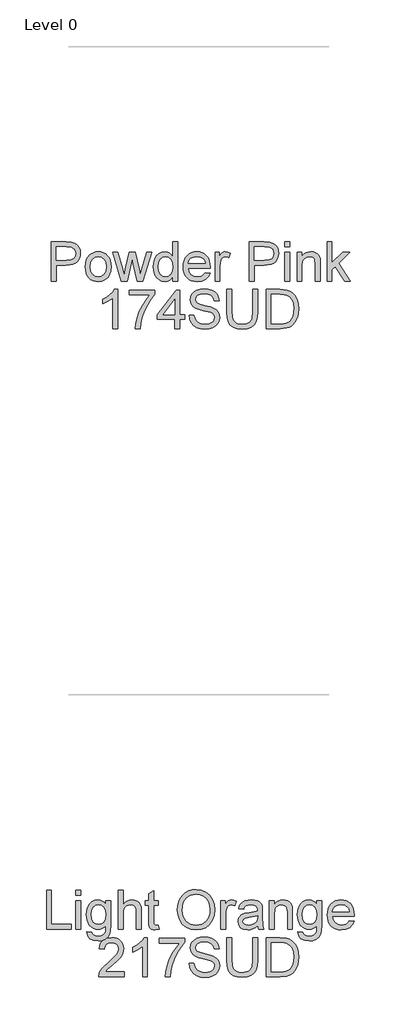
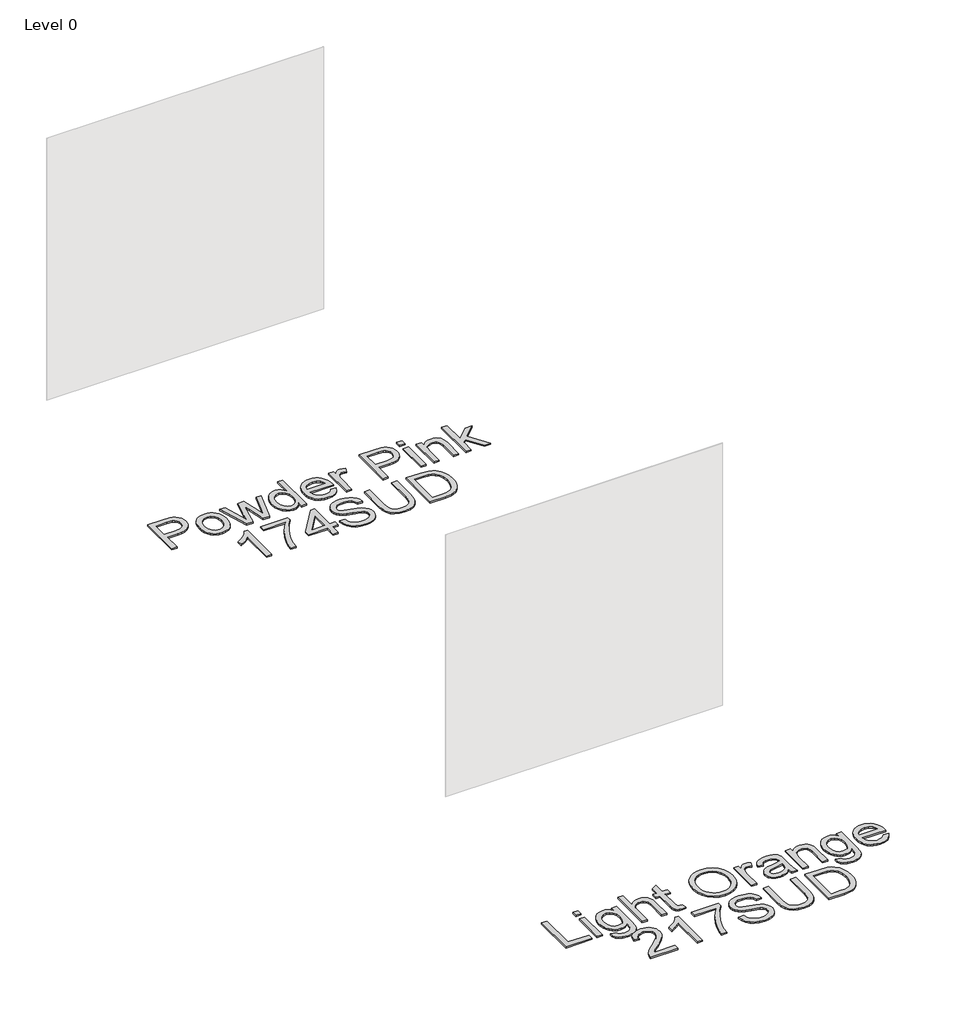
# One storey, part 8 of 37: 2 proxies.
"""IFC4 building model written with IfcOpenShell, lengths in millimetres."""

from ifc_helpers import new_model, si_unit, origin, origin_with_axes, place, context, project, spatial, polyline, outline, extrude, element, save

model = new_model("IFC4")

# Units and contexts
model_context = context("Model", 3, world=origin())
ifc_project = project(units=[si_unit("LENGTHUNIT", "METRE", prefix="MILLI")], contexts=[model_context])

# Site, building, storey
site = spatial("IfcSite", under=ifc_project)
building = spatial("IfcBuilding", under=site)
storey = spatial("IfcBuildingStorey", under=building, Name="Level 0", Elevation=0.0)

# Proxies
placement = place(None, origin())
element("IfcBuildingElementProxy", 1, Name="300mm Arial", ObjectType="300mm Arial", at=placement, inside=storey, context=model_context, shape_type="SweptSolid", body=[
    extrude(outline(polyline([(-10587.8548798, -16982.860494), (-10587.8548798, -16681.4915635), (-10476.1659061, -16681.4915635), (-10431.1371499, -16684.3610431), (-10411.05999, -16689.7229232), (-10394.5328913, -16698.4509235), (-10381.2247602, -16710.9405172), (-10370.8045026, -16727.5871775), (-10364.0722621, -16747.222879), (-10361.828182, -16768.6795964), (-10363.3433959, -16787.1794622), (-10367.8890378, -16804.198603), (-10375.4651077, -16819.7370188), (-10386.0716054, -16833.7947095), (-10400.6328347, -16845.4473717), (-10420.0730988, -16853.7707019), (-10444.392398, -16858.7647), (-10473.5907321, -16860.429366), (-10550.1837635, -16860.429366), (-10550.1837635, -16982.860494), (-10587.8548798, -16982.860494)]), holes=[polyline([(-10550.1837635, -16822.7582497), (-10471.3834401, -16822.7582497), (-10437.979755, -16819.3001589), (-10415.9068353, -16808.9258867), (-10403.6011825, -16792.2792264), (-10399.4992983, -16770.0039716), (-10401.9181224, -16753.0813998), (-10409.1745947, -16738.8075784), (-10420.3674044, -16728.0654241), (-10434.5952406, -16721.7378538), (-10472.2663569, -16719.1626798), (-10550.1837635, -16719.1626798), (-10550.1837635, -16822.7582497)])]), origin_with_axes(), (0.0, 0.0, 1.0), 10.0),
    extrude(outline(polyline([(-10324.1570657, -16872.2015898), (-10322.1199191, -16843.5389839), (-10316.0084795, -16818.8403064), (-10305.8227467, -16798.1055575), (-10291.5627209, -16781.334737), (-10277.206126, -16770.6155754), (-10261.3596091, -16762.9590314), (-10244.0231701, -16758.3651049), (-10225.196809, -16756.8337961), (-10204.4137755, -16758.698498), (-10185.6219033, -16764.2926036), (-10168.8211925, -16773.6161129), (-10154.0116429, -16786.669026), (-10141.9244201, -16803.0098843), (-10133.2906895, -16822.1972296), (-10128.1104512, -16844.2310619), (-10126.383705, -16869.1113811), (-10129.4371256, -16907.1687735), (-10138.5973873, -16936.1394806), (-10153.5977756, -16957.8353213), (-10174.1715762, -16974.0681143), (-10198.6081378, -16984.1940662), (-10225.196809, -16987.5693835), (-10246.2833451, -16985.7115794), (-10265.2499612, -16980.1381672), (-10282.0966573, -16970.8491468), (-10296.8234334, -16957.8445183), (-10308.7818975, -16941.3450108), (-10317.3236576, -16921.5713536), (-10322.4487136, -16898.5235466), (-10324.1570657, -16872.2015898)]), holes=[polyline([(-10286.4859493, -16872.1280134), (-10282.1265477, -16906.2214773), (-10269.0483428, -16930.5108861), (-10249.366656, -16945.0514219), (-10225.196809, -16949.8982672), (-10201.1373265, -16945.0238308), (-10181.4924279, -16930.4005215), (-10168.414223, -16905.789216), (-10164.0548214, -16870.950791), (-10168.4418141, -16837.8506085), (-10181.6027925, -16813.8922936), (-10201.2752822, -16799.3517577), (-10225.196809, -16794.5049125), (-10249.366656, -16799.3333636), (-10269.0483428, -16813.8187172), (-10282.1265477, -16838.0529436), (-10286.4859493, -16872.1280134)])]), origin_with_axes(), (0.0, 0.0, 1.0), 10.0),
    extrude(outline(polyline([(-10047.2890761, -16982.860494), (-10114.6114812, -16761.5426857), (-10075.4688369, -16761.5426857), (-10037.2826858, -16890.669266), (-10025.878344, -16936.8016682), (-10016.5341413, -16892.3615232), (-9986.1470885, -16761.5426857), (-9941.2654851, -16761.5426857), (-9911.0255851, -16891.9936412), (-9902.711452, -16932.2399314), (-9890.7920753, -16889.7863492), (-9852.5323478, -16761.5426857), (-9813.2425508, -16761.5426857), (-9881.0799907, -16982.860494), (-9926.6237817, -16982.860494), (-9955.5393065, -16853.0717261), (-9963.927016, -16812.6047066), (-10001.2302503, -16982.860494), (-10047.2890761, -16982.860494)])), origin_with_axes(), (0.0, 0.0, 1.0), 10.0),
    extrude(outline(polyline([(-9650.7858617, -16982.860494), (-9650.7858617, -16947.3230932), (-9662.0568463, -16964.9308452), (-9675.7098669, -16977.507811), (-9691.7449233, -16985.0539904), (-9710.1620157, -16987.5693835), (-9734.5158038, -16983.9273518), (-9756.8094527, -16973.0012565), (-9775.681799, -16955.5544529), (-9789.7716795, -16932.350296), (-9798.545665, -16904.3268851), (-9801.4703269, -16872.422319), (-9798.7755913, -16840.9132261), (-9790.6913844, -16812.4575538), (-9777.2269034, -16788.6739828), (-9758.3913453, -16771.181194), (-9735.6102527, -16760.4206456), (-9710.3091685, -16756.8337961), (-9691.8782805, -16759.3997731), (-9675.5811082, -16767.0977038), (-9661.7671392, -16778.8975188), (-9650.7858617, -16793.7691485), (-9650.7858617, -16681.4915635), (-9613.1147454, -16681.4915635), (-9613.1147454, -16982.860494), (-9650.7858617, -16982.860494)]), holes=[polyline([(-9763.7992106, -16872.2751662), (-9759.5501736, -16906.350236), (-9746.8030624, -16930.5844625), (-9728.280204, -16945.069816), (-9706.703925, -16949.8982672), (-9685.136843, -16945.2905452), (-9667.0830341, -16931.4673793), (-9654.8601548, -16908.1712519), (-9650.7858617, -16875.1446458), (-9654.9337312, -16839.037028), (-9667.3773397, -16814.0026582), (-9685.8910011, -16799.3793489), (-9708.2490293, -16794.5049125), (-9730.0460375, -16799.1862108), (-9747.9067084, -16813.230106), (-9759.8260851, -16837.3539678), (-9763.7992106, -16872.2751662)])]), origin_with_axes(), (0.0, 0.0, 1.0), 10.0),
    extrude(outline(polyline([(-9401.6561745, -16916.9360404), (-9364.7208222, -16921.64493), (-9378.0289534, -16949.4752029), (-9399.2649416, -16970.2789297), (-9427.9505402, -16983.2467701), (-9463.6075025, -16987.5693835), (-9486.9818048, -16985.7046817), (-9507.8085243, -16980.1105761), (-9526.0876609, -16970.7870668), (-9541.8192147, -16957.7341537), (-9554.4697568, -16941.3151204), (-9563.5058583, -16921.8932503), (-9568.9275192, -16899.4685435), (-9570.7347395, -16874.0409998), (-9568.9091251, -16847.7512327), (-9563.4322819, -16824.5792656), (-9554.3042099, -16804.5250983), (-9541.5249091, -16787.5887309), (-9525.834742, -16774.133447), (-9507.9740712, -16764.5225298), (-9487.9428965, -16758.7559796), (-9465.7412181, -16756.8337961), (-9444.2546103, -16758.751381), (-9424.8235432, -16764.5041357), (-9407.4480167, -16774.0920602), (-9392.1280309, -16787.5151545), (-9379.6223423, -16804.4147337), (-9370.6897076, -16824.4321128), (-9365.3301268, -16847.5672917), (-9363.5435998, -16873.8202706), (-9363.764329, -16883.9738137), (-9533.0636232, -16883.9738137), (-9526.5429149, -16912.1719686), (-9511.3953737, -16932.902119), (-9489.5339861, -16945.6492302), (-9462.8717385, -16949.8982672), (-9442.8221698, -16947.9300985), (-9425.9363862, -16942.0255925), (-9412.2143878, -16931.8168672), (-9401.6561745, -16916.9360404)]), holes=[polyline([(-9533.0636232, -16846.3026974), (-9401.2147162, -16846.3026974), (-9406.3098818, -16826.4002814), (-9416.297878, -16812.1632482), (-9438.2604331, -16798.9194964), (-9465.8883709, -16794.5049125), (-9491.2814256, -16798.0273826), (-9512.2782905, -16808.5947929), (-9526.8740087, -16825.0667092), (-9533.0636232, -16846.3026974)])]), origin_with_axes(), (0.0, 0.0, 1.0), 10.0),
    extrude(outline(polyline([(-9325.8724835, -16982.860494), (-9325.8724835, -16761.5426857), (-9292.9102568, -16761.5426857), (-9292.9102568, -16794.2841833), (-9280.7333627, -16775.3014723), (-9269.5129619, -16764.1178596), (-9258.2557728, -16758.654812), (-9245.9685142, -16756.8337961), (-9227.2065324, -16759.7400639), (-9208.1502451, -16768.4588672), (-9220.7318093, -16802.2304343), (-9233.9755611, -16796.4362929), (-9247.219313, -16794.5049125), (-9258.467305, -16796.3627165), (-9268.5196805, -16801.9361288), (-9276.6406755, -16810.8020848), (-9282.0945261, -16822.5375205), (-9286.674657, -16843.5803706), (-9288.2013672, -16866.5362071), (-9288.2013672, -16982.860494), (-9325.8724835, -16982.860494)])), origin_with_axes(), (0.0, 0.0, 1.0), 10.0),
    extrude(outline(polyline([(-9062.1746694, -16982.860494), (-9062.1746694, -16681.4915635), (-8950.4856957, -16681.4915635), (-8905.4569395, -16684.3610431), (-8885.3797796, -16689.7229232), (-8868.8526809, -16698.4509235), (-8855.5445498, -16710.9405172), (-8845.1242922, -16727.5871775), (-8838.3920517, -16747.222879), (-8836.1479716, -16768.6795964), (-8837.6631855, -16787.1794622), (-8842.2088274, -16804.198603), (-8849.7848973, -16819.7370188), (-8860.391395, -16833.7947095), (-8874.9526243, -16845.4473717), (-8894.3928885, -16853.7707019), (-8918.7121876, -16858.7647), (-8947.9105217, -16860.429366), (-9024.5035531, -16860.429366), (-9024.5035531, -16982.860494), (-9062.1746694, -16982.860494)]), holes=[polyline([(-9024.5035531, -16822.7582497), (-8945.7032297, -16822.7582497), (-8912.2995446, -16819.3001589), (-8890.2266249, -16808.9258867), (-8877.9209721, -16792.2792264), (-8873.8190879, -16770.0039716), (-8876.237912, -16753.0813998), (-8883.4943843, -16738.8075784), (-8894.687194, -16728.0654241), (-8908.9150302, -16721.7378538), (-8946.5861465, -16719.1626798), (-9024.5035531, -16719.1626798), (-9024.5035531, -16822.7582497)])]), origin_with_axes(), (0.0, 0.0, 1.0), 10.0),
    extrude(outline(polyline([(-8789.0590762, -16719.1626798), (-8789.0590762, -16681.4915635), (-8751.3879599, -16681.4915635), (-8751.3879599, -16719.1626798), (-8789.0590762, -16719.1626798)])), origin_with_axes(), (0.0, 0.0, 1.0), 10.0),
    extrude(outline(polyline([(-8789.0590762, -16982.860494), (-8789.0590762, -16761.5426857), (-8751.3879599, -16761.5426857), (-8751.3879599, -16982.860494), (-8789.0590762, -16982.860494)])), origin_with_axes(), (0.0, 0.0, 1.0), 10.0),
    extrude(outline(polyline([(-8694.8812854, -16982.860494), (-8694.8812854, -16761.5426857), (-8657.2101691, -16761.5426857), (-8657.2101691, -16792.4447733), (-8644.1227671, -16776.8649708), (-8628.4050089, -16765.7365404), (-8610.0568944, -16759.0594822), (-8589.0784236, -16756.8337961), (-8570.5095799, -16758.6272209), (-8553.5042347, -16764.0074951), (-8539.3223838, -16772.303234), (-8529.224023, -16782.8430532), (-8517.9300457, -16810.5445674), (-8515.943483, -16846.964885), (-8515.943483, -16982.860494), (-8553.6145993, -16982.860494), (-8553.6145993, -16852.0416565), (-8557.9556068, -16818.7115477), (-8563.9612804, -16808.7879309), (-8573.296286, -16801.0900002), (-8585.2616479, -16796.1511844), (-8599.1583903, -16794.5049125), (-8621.2221129, -16798.2021265), (-8640.0300799, -16809.2937687), (-8647.5463689, -16818.3482643), (-8652.9151468, -16830.7228949), (-8657.2101691, -16865.4325611), (-8657.2101691, -16982.860494), (-8694.8812854, -16982.860494)])), origin_with_axes(), (0.0, 0.0, 1.0), 10.0),
    extrude(outline(polyline([(-8464.145698, -16982.860494), (-8464.145698, -16681.4915635), (-8426.4745817, -16681.4915635), (-8426.4745817, -16843.4332178), (-8342.0088756, -16761.5426857), (-8289.9167851, -16761.5426857), (-8375.4125608, -16844.4632874), (-8285.2078956, -16982.860494), (-8329.2065822, -16982.860494), (-8402.4150993, -16870.6564855), (-8426.4745817, -16893.9802039), (-8426.4745817, -16982.860494), (-8464.145698, -16982.860494)])), origin_with_axes(), (0.0, 0.0, 1.0), 10.0),
    extrude(outline(polyline([(-10076.9403649, -17348.7849475), (-10114.6114812, -17348.7849475), (-10114.6114812, -17113.9290818), (-10150.2960347, -17139.3497277), (-10189.9537138, -17158.3692268), (-10189.9537138, -17122.7582497), (-10160.3668044, -17106.6634124), (-10134.7346263, -17087.5151545), (-10114.5287078, -17067.1528861), (-10101.2205766, -17047.4160171), (-10076.9403649, -17047.4160171), (-10076.9403649, -17348.7849475)])), origin_with_axes(), (0.0, 0.0, 1.0), 10.0),
    extrude(outline(polyline([(-9987.4714637, -17089.7960229), (-9987.4714637, -17052.1249066), (-9789.6981031, -17052.1249066), (-9789.6981031, -17082.5855358), (-9817.8870609, -17118.2608923), (-9845.8001073, -17163.6299393), (-9870.4206099, -17214.5540045), (-9888.7319362, -17266.8944154), (-9897.7082568, -17306.0554538), (-9902.711452, -17348.7849475), (-9940.3825683, -17348.7849475), (-9936.3082752, -17309.9550029), (-9925.4097711, -17263.8042066), (-9907.9813616, -17214.8850983), (-9884.3173522, -17167.7502177), (-9856.6894144, -17125.1402856), (-9827.3692194, -17089.7960229), (-9987.4714637, -17089.7960229)])), origin_with_axes(), (0.0, 0.0, 1.0), 10.0),
    extrude(outline(polyline([(-9634.3047483, -17348.7849475), (-9634.3047483, -17278.1516044), (-9770.8625449, -17278.1516044), (-9770.8625449, -17240.4804881), (-9624.8869692, -17052.1249066), (-9596.633632, -17052.1249066), (-9596.633632, -17240.4804881), (-9558.9625157, -17240.4804881), (-9558.9625157, -17278.1516044), (-9596.633632, -17278.1516044), (-9596.633632, -17348.7849475), (-9634.3047483, -17348.7849475)]), holes=[polyline([(-9634.3047483, -17240.4804881), (-9634.3047483, -17124.0826249), (-9724.5094135, -17240.4804881), (-9634.3047483, -17240.4804881)])]), origin_with_axes(), (0.0, 0.0, 1.0), 10.0),
    extrude(outline(polyline([(-9526.0002889, -17245.1893777), (-9488.3291726, -17245.1893777), (-9484.0065592, -17266.0942721), (-9476.1890668, -17282.8972822), (-9463.9937786, -17296.2330045), (-9446.537778, -17306.7360355), (-9425.2006222, -17313.5510494), (-9401.361869, -17315.8227207), (-9380.3742011, -17314.1028724), (-9361.9984955, -17308.9433274), (-9347.1084717, -17300.7763471), (-9336.5778496, -17290.0341929), (-9330.3146586, -17277.700949), (-9328.2269283, -17264.7606998), (-9329.7904268, -17252.1515444), (-9334.4809222, -17241.2530403), (-9344.0090659, -17231.9548229), (-9360.0855091, -17224.1465276), (-9414.9367146, -17209.7623415), (-9450.9431649, -17200.2433949), (-9473.9817748, -17191.1843008), (-9492.7345595, -17178.510766), (-9506.0242966, -17163.1516928), (-9513.9429565, -17145.4381747), (-9516.5825098, -17125.7013056), (-9513.3175571, -17103.637583), (-9503.522699, -17083.0637824), (-9487.4554529, -17065.6261758), (-9465.3733361, -17052.9710352), (-9438.8674384, -17045.2731044), (-9409.5288492, -17042.7071275), (-9377.7438449, -17045.3926661), (-9349.931966, -17053.4492818), (-9327.0864941, -17066.7114277), (-9310.2007105, -17085.013557), (-9299.5137386, -17107.2152354), (-9295.2647015, -17132.1760288), (-9332.9358179, -17132.1760288), (-9339.8519994, -17109.6984389), (-9354.2729736, -17093.4748429), (-9376.8057458, -17083.6523936), (-9408.0573213, -17080.3782438), (-9440.0446607, -17083.6156054), (-9461.9888218, -17093.3276901), (-9474.6807506, -17107.6199056), (-9478.9113935, -17124.5976597), (-9475.9131553, -17139.0738162), (-9466.9184405, -17150.7172813), (-9445.6548612, -17161.1283418), (-9405.4085709, -17171.7601314), (-9363.8746936, -17181.8584922), (-9338.7483534, -17190.669266), (-9317.2732419, -17204.3360821), (-9302.2912477, -17221.2034716), (-9293.4896709, -17241.0874934), (-9290.555812, -17263.8042066), (-9293.9311293, -17287.0267576), (-9304.0570812, -17308.869751), (-9320.5198005, -17327.668521), (-9342.9054199, -17341.7584014), (-9369.8251849, -17350.5599781), (-9399.890341, -17353.4938371), (-9436.7981021, -17350.3300519), (-9467.1759579, -17340.8386964), (-9491.3733961, -17324.9829824), (-9509.7399047, -17302.7261217), (-9521.5305227, -17275.6132187), (-9526.0002889, -17245.1893777)])), origin_with_axes(), (0.0, 0.0, 1.0), 10.0),
    extrude(outline(polyline([(-9036.2757769, -17047.4160171), (-8998.6046606, -17047.4160171), (-8998.6046606, -17221.277048), (-9001.1614405, -17261.9923878), (-9008.8317801, -17293.3451308), (-9023.1607838, -17317.533372), (-9045.693556, -17336.7552063), (-9076.485279, -17349.3091794), (-9115.5911351, -17353.4938371), (-9153.8416655, -17349.8518053), (-9184.4218564, -17338.92571), (-9207.3409047, -17321.0926303), (-9222.6080075, -17296.7296452), (-9231.188855, -17264.052527), (-9234.0491375, -17221.277048), (-9234.0491375, -17047.4160171), (-9196.3780212, -17047.4160171), (-9196.3780212, -17219.9526728), (-9194.5202172, -17253.8070134), (-9188.9468049, -17277.3790523), (-9178.8484442, -17293.7038158), (-9163.4157945, -17305.8163305), (-9143.2926493, -17313.3211232), (-9119.1228023, -17315.8227207), (-9080.8078925, -17310.8747079), (-9066.4650932, -17304.6896919), (-9055.3320643, -17296.0306694), (-9046.9949386, -17283.8537754), (-9041.0398488, -17267.1151446), (-9036.2757769, -17219.9526728), (-9036.2757769, -17047.4160171)])), origin_with_axes(), (0.0, 0.0, 1.0), 10.0),
    extrude(outline(polyline([(-8932.6802071, -17348.7849475), (-8932.6802071, -17047.4160171), (-8828.7167553, -17047.4160171), (-8774.9324076, -17051.7570246), (-8750.9097133, -17060.12634), (-8730.6394153, -17073.3149095), (-8709.7989003, -17096.270746), (-8694.9548618, -17124.8183889), (-8686.0705116, -17158.406015), (-8683.1090616, -17196.4818015), (-8685.1140184, -17228.8278259), (-8691.1288891, -17257.2926953), (-8700.2891507, -17281.5269217), (-8711.7302808, -17301.1810173), (-8724.9004562, -17316.6964405), (-8739.247854, -17328.5146496), (-8755.7197704, -17337.2794381), (-8775.2635014, -17343.6345996), (-8823.7135601, -17348.7849475), (-8932.6802071, -17348.7849475)]), holes=[polyline([(-8895.0090908, -17311.1138312), (-8828.3488733, -17311.1138312), (-8800.7761177, -17309.7526678), (-8779.8620263, -17305.6691777), (-8764.0798887, -17299.1024841), (-8751.9029947, -17290.2917103), (-8738.8155927, -17273.9853408), (-8728.9839464, -17252.8781114), (-8722.83112, -17226.8780514), (-8720.7801779, -17195.8931903), (-8724.7992887, -17154.8375597), (-8736.8566211, -17124.5240833), (-8754.6713067, -17103.7019623), (-8775.9624772, -17091.1203981), (-8797.6307267, -17086.5954496), (-8829.3789429, -17085.0871334), (-8895.0090908, -17085.0871334), (-8895.0090908, -17311.1138312)])]), origin_with_axes(), (0.0, 0.0, 1.0), 10.0),
])
element("IfcBuildingElementProxy", 2, Name="300mm Arial", ObjectType="300mm Arial", at=placement, inside=storey, context=model_context, shape_type="SweptSolid", body=[
    extrude(outline(polyline([(-10623.1715513, -21972.860494), (-10623.1715513, -21671.4915635), (-10585.500435, -21671.4915635), (-10585.500435, -21935.1893777), (-10434.8159698, -21935.1893777), (-10434.8159698, -21972.860494), (-10623.1715513, -21972.860494)])), origin_with_axes(), (0.0, 0.0, 1.0), 10.0),
    extrude(outline(polyline([(-10397.1448535, -21972.860494), (-10397.1448535, -21751.5426857), (-10359.4737372, -21751.5426857), (-10359.4737372, -21972.860494), (-10397.1448535, -21972.860494)])), origin_with_axes(), (0.0, 0.0, 1.0), 10.0),
    extrude(outline(polyline([(-10397.1448535, -21709.1626798), (-10397.1448535, -21671.4915635), (-10359.4737372, -21671.4915635), (-10359.4737372, -21709.1626798), (-10397.1448535, -21709.1626798)])), origin_with_axes(), (0.0, 0.0, 1.0), 10.0),
    extrude(outline(polyline([(-10312.3848418, -21991.6960521), (-10274.7137255, -21996.4049417), (-10270.556659, -22008.1771655), (-10262.5000433, -22016.2705694), (-10246.6627234, -22022.5613515), (-10225.9325729, -22024.6582789), (-10203.822865, -22022.28544), (-10187.3785398, -22015.1669234), (-10175.974198, -22003.7625816), (-10168.9844401, -21988.532267), (-10166.4092661, -21944.6071568), (-10178.9448451, -21956.9679918), (-10192.933558, -21965.7971597), (-10208.3754047, -21971.0946604), (-10225.2703854, -21972.860494), (-10245.9246601, -21970.8049533), (-10264.109527, -21964.6383314), (-10279.824986, -21954.3606281), (-10293.0710371, -21939.9718436), (-10303.5809658, -21922.708981), (-10311.0880578, -21903.8090435), (-10315.592313, -21883.2720311), (-10317.0937313, -21861.0979438), (-10314.3989957, -21830.6832999), (-10306.3147889, -21802.7150712), (-10293.1262194, -21779.0142737), (-10275.1183957, -21761.4019232), (-10252.9075202, -21750.4758279), (-10227.1097953, -21746.8337961), (-10209.4928463, -21748.8939353), (-10193.5037751, -21755.0743528), (-10179.1425817, -21765.3750487), (-10166.4092661, -21779.7960229), (-10166.4092661, -21751.5426857), (-10128.7381498, -21751.5426857), (-10128.7381498, -21942.620594), (-10131.3133238, -21986.7388422), (-10139.0388457, -22015.7923228), (-10152.3469769, -22035.0601423), (-10171.6699787, -22049.8214074), (-10196.5847868, -22059.2023982), (-10226.6683369, -22062.3293952), (-10261.718294, -22057.9240083), (-10289.3186407, -22044.7078476), (-10299.7136063, -22034.7865301), (-10307.0229617, -22022.644125), (-10311.2467069, -22008.2806323), (-10312.3848418, -21991.6960521)]), holes=[polyline([(-10279.422615, -21858.5227699), (-10275.4035042, -21893.0760863), (-10263.3461719, -21916.8320661), (-10245.2187865, -21930.6000498), (-10222.989517, -21935.1893777), (-10200.9257943, -21930.6276409), (-10182.7064385, -21916.9424307), (-10170.4835592, -21893.4899535), (-10166.4092661, -21859.6264159), (-10170.6031209, -21826.9676917), (-10183.1846851, -21803.4508352), (-10201.6707554, -21789.2413931), (-10223.5781282, -21784.5049125), (-10245.0900278, -21789.1678167), (-10263.1254427, -21803.1565296), (-10275.3483219, -21826.3238983), (-10279.422615, -21858.5227699)])]), origin_with_axes(), (0.0, 0.0, 1.0), 10.0),
    extrude(outline(polyline([(-10072.2314754, -21972.860494), (-10072.2314754, -21671.4915635), (-10034.5603591, -21671.4915635), (-10034.5603591, -21782.2976205), (-10020.7233975, -21766.7821973), (-10005.1849817, -21755.6997522), (-9987.9451117, -21749.0502852), (-9969.0037875, -21746.8337961), (-9946.2502861, -21749.2526203), (-9926.6973581, -21756.5090926), (-9911.3014966, -21768.0329961), (-9901.0191948, -21783.2541137), (-9895.2250534, -21804.1682051), (-9893.2936729, -21832.7710302), (-9893.2936729, -21972.860494), (-9930.9647892, -21972.860494), (-9930.9647892, -21836.6705794), (-9933.9630275, -21813.0893435), (-9942.9577423, -21796.9393239), (-9957.4522929, -21787.6135153), (-9976.9500386, -21784.5049125), (-9992.8701319, -21786.6018398), (-10007.815338, -21792.8926219), (-10020.1945671, -21802.7702535), (-10028.4167297, -21815.6277292), (-10033.0244517, -21832.7158479), (-10034.5603591, -21855.2854083), (-10034.5603591, -21972.860494), (-10072.2314754, -21972.860494)])), origin_with_axes(), (0.0, 0.0, 1.0), 10.0),
    extrude(outline(polyline([(-9761.4447658, -21941.4433716), (-9756.7358763, -21973.96414), (-9784.9156371, -21977.5693835), (-9802.9970372, -21976.005885), (-9816.4799123, -21971.3153896), (-9826.008056, -21964.0865084), (-9832.2252617, -21954.9078526), (-9835.6465643, -21939.1441091), (-9836.7869984, -21912.1599648), (-9836.7869984, -21789.213802), (-9865.0403357, -21789.213802), (-9865.0403357, -21751.5426857), (-9836.7869984, -21751.5426857), (-9836.7869984, -21697.758338), (-9799.1158821, -21675.6118419), (-9799.1158821, -21751.5426857), (-9761.4447658, -21751.5426857), (-9761.4447658, -21789.213802), (-9799.1158821, -21789.213802), (-9799.1158821, -21911.0563188), (-9797.1293194, -21930.4804881), (-9790.6913844, -21937.3598814), (-9777.8523028, -21939.8982672), (-9761.4447658, -21941.4433716)])), origin_with_axes(), (0.0, 0.0, 1.0), 10.0),
    extrude(outline(polyline([(-9615.4691901, -21826.1491543), (-9612.9583955, -21790.8002931), (-9605.4260117, -21759.5073309), (-9592.8720386, -21732.2702677), (-9575.2964763, -21709.0891034), (-9553.7523869, -21690.5800406), (-9529.2928328, -21677.3592814), (-9501.9178138, -21669.4268258), (-9471.62733, -21666.782674), (-9432.0984097, -21671.7490809), (-9396.6529794, -21686.6483017), (-9367.2224198, -21710.4318727), (-9345.7381113, -21742.0513302), (-9332.6047241, -21779.9799639), (-9328.2269283, -21822.6910636), (-9332.8346503, -21865.9723803), (-9346.6578163, -21904.4344429), (-9368.9330711, -21936.1090827), (-9398.8970596, -21959.028131), (-9434.0389872, -21972.9340704), (-9471.8480592, -21977.5693835), (-9511.9839849, -21972.4466267), (-9547.6317502, -21957.0783564), (-9576.9887335, -21932.853327), (-9598.2523128, -21901.1602931), (-9611.1649708, -21864.6939903), (-9615.4691901, -21826.1491543)]), holes=[polyline([(-9577.7980738, -21826.5170363), (-9575.9149779, -21851.4916252), (-9570.26569, -21873.661114), (-9560.8502102, -21893.0255025), (-9547.6685384, -21909.5847908), (-9531.6449783, -21922.8469367), (-9513.7038332, -21932.3198981), (-9493.8451033, -21938.0036749), (-9472.0687884, -21939.8982672), (-9449.9199931, -21937.9852808), (-9429.8267383, -21932.2463217), (-9411.7890243, -21922.6813898), (-9395.8068508, -21909.2904852), (-9382.7217481, -21892.381709), (-9373.3752462, -21872.2631624), (-9367.767345, -21848.9348454), (-9365.8980446, -21822.396758), (-9369.098618, -21789.0482551), (-9378.7003381, -21760.2247008), (-9394.4548845, -21736.6526619), (-9416.113937, -21719.0587055), (-9442.2427557, -21708.1050191), (-9471.4066008, -21704.4537903), (-9492.4264583, -21706.2127261), (-9511.9288026, -21711.4895335), (-9529.9136336, -21720.2842124), (-9546.3809515, -21732.5967629), (-9560.1259425, -21749.0203948), (-9569.9437932, -21770.1483176), (-9575.8345037, -21795.9805314), (-9577.7980738, -21826.5170363)])]), origin_with_axes(), (0.0, 0.0, 1.0), 10.0),
    extrude(outline(polyline([(-9281.1380329, -21972.860494), (-9281.1380329, -21751.5426857), (-9248.1758062, -21751.5426857), (-9248.1758062, -21784.2841833), (-9235.9989121, -21765.3014723), (-9224.7785113, -21754.1178596), (-9213.5213222, -21748.654812), (-9201.2340636, -21746.8337961), (-9182.4720818, -21749.7400639), (-9163.4157945, -21758.4588672), (-9175.9973587, -21792.2304343), (-9189.2411105, -21786.4362929), (-9202.4848624, -21784.5049125), (-9213.7328544, -21786.3627165), (-9223.7852299, -21791.9361288), (-9231.9062249, -21800.8020848), (-9237.3600755, -21812.5375205), (-9241.9402063, -21833.5803706), (-9243.4669166, -21856.5362071), (-9243.4669166, -21972.860494), (-9281.1380329, -21972.860494)])), origin_with_axes(), (0.0, 0.0, 1.0), 10.0),
    extrude(outline(polyline([(-8998.6046606, -21944.6071568), (-9016.6032872, -21960.0398064), (-9035.1353428, -21970.1381672), (-9054.6238914, -21975.7115794), (-9075.4919976, -21977.5693835), (-9106.9734994, -21973.0996173), (-9130.1960503, -21959.6903186), (-9144.515857, -21939.3280501), (-9149.2891259, -21913.9993748), (-9147.4865041, -21898.3827841), (-9142.0786388, -21884.2009331), (-9133.7369145, -21872.0608273), (-9123.132716, -21862.5694718), (-9096.7555769, -21850.2086368), (-9064.1612322, -21844.5432541), (-9025.6439873, -21838.5835657), (-8998.8253898, -21831.5938078), (-8998.6046606, -21823.2060983), (-9001.1982287, -21806.3938912), (-9008.9789329, -21795.3942195), (-9026.3797513, -21787.2272392), (-9050.6231748, -21784.5049125), (-9073.0639765, -21786.3167313), (-9088.7357495, -21791.7521878), (-9099.4227214, -21801.8045633), (-9106.90912, -21817.4671392), (-9144.5802363, -21812.7582497), (-9138.0411339, -21792.156858), (-9128.2830639, -21775.9700502), (-9114.3955186, -21763.590821), (-9095.46799, -21754.4121652), (-9072.3190154, -21748.7283884), (-9045.7671324, -21746.8337961), (-9020.3005013, -21748.5076592), (-9000.1129768, -21753.5292485), (-8984.8918593, -21761.0800264), (-8974.324449, -21770.3414556), (-8967.3162969, -21781.7917827), (-8962.7729543, -21795.9092543), (-8960.9335443, -21828.8714811), (-8960.9335443, -21875.7396473), (-8959.020558, -21941.1858542), (-8951.5157653, -21972.860494), (-8989.1868816, -21972.860494), (-8998.6046606, -21944.6071568)]), holes=[polyline([(-8998.6046606, -21869.2649241), (-9059.3787662, -21880.8164188), (-9091.78917, -21886.9232599), (-9106.4676616, -21896.8560738), (-9111.6180096, -21911.3506244), (-9108.8129093, -21922.5526311), (-9100.3976087, -21931.7312869), (-9086.5560486, -21937.8565221), (-9067.4721701, -21939.8982672), (-9047.2386604, -21937.64499), (-9029.3595954, -21930.8851583), (-9014.8650448, -21920.9247533), (-9004.7850782, -21909.069756), (-9000.3153119, -21896.8560738), (-8998.8253898, -21879.933502), (-8998.6046606, -21869.2649241)])]), origin_with_axes(), (0.0, 0.0, 1.0), 10.0),
    extrude(outline(polyline([(-8909.1357594, -21972.860494), (-8909.1357594, -21751.5426857), (-8871.4646431, -21751.5426857), (-8871.4646431, -21782.4447733), (-8858.3772411, -21766.8649708), (-8842.6594829, -21755.7365404), (-8824.3113684, -21749.0594822), (-8803.3328976, -21746.8337961), (-8784.7640539, -21748.6272209), (-8767.7587087, -21754.0074951), (-8753.5768577, -21762.303234), (-8743.478497, -21772.8430532), (-8732.1845197, -21800.5445674), (-8730.197957, -21836.964885), (-8730.197957, -21972.860494), (-8767.8690733, -21972.860494), (-8767.8690733, -21842.0416565), (-8772.2100808, -21808.7115477), (-8778.2157544, -21798.7879309), (-8787.55076, -21791.0900002), (-8799.5161219, -21786.1511844), (-8813.4128643, -21784.5049125), (-8835.4765869, -21788.2021265), (-8854.2845539, -21799.2937687), (-8861.8008429, -21808.3482643), (-8867.1696208, -21820.7228949), (-8871.4646431, -21855.4325611), (-8871.4646431, -21972.860494), (-8909.1357594, -21972.860494)])), origin_with_axes(), (0.0, 0.0, 1.0), 10.0),
    extrude(outline(polyline([(-8687.8179511, -21991.6960521), (-8650.1468348, -21996.4049417), (-8645.9897683, -22008.1771655), (-8637.9331526, -22016.2705694), (-8622.0958327, -22022.5613515), (-8601.3656822, -22024.6582789), (-8579.2559743, -22022.28544), (-8562.8116491, -22015.1669234), (-8551.4073073, -22003.7625816), (-8544.4175494, -21988.532267), (-8541.8423754, -21944.6071568), (-8554.3779544, -21956.9679918), (-8568.3666673, -21965.7971597), (-8583.808514, -21971.0946604), (-8600.7034947, -21972.860494), (-8621.3577694, -21970.8049533), (-8639.5426363, -21964.6383314), (-8655.2580953, -21954.3606281), (-8668.5041464, -21939.9718436), (-8679.0140751, -21922.708981), (-8686.5211671, -21903.8090435), (-8691.0254223, -21883.2720311), (-8692.5268406, -21861.0979438), (-8689.832105, -21830.6832999), (-8681.7478982, -21802.7150712), (-8668.5593287, -21779.0142737), (-8650.551505, -21761.4019232), (-8628.3406295, -21750.4758279), (-8602.5429046, -21746.8337961), (-8584.9259556, -21748.8939353), (-8568.9368844, -21755.0743528), (-8554.575691, -21765.3750487), (-8541.8423754, -21779.7960229), (-8541.8423754, -21751.5426857), (-8504.1712591, -21751.5426857), (-8504.1712591, -21942.620594), (-8506.7464331, -21986.7388422), (-8514.471955, -22015.7923228), (-8527.7800862, -22035.0601423), (-8547.103088, -22049.8214074), (-8572.0178961, -22059.2023982), (-8602.1014462, -22062.3293952), (-8637.1514033, -22057.9240083), (-8664.75175, -22044.7078476), (-8675.1467156, -22034.7865301), (-8682.456071, -22022.644125), (-8686.6798162, -22008.2806323), (-8687.8179511, -21991.6960521)]), holes=[polyline([(-8654.8557243, -21858.5227699), (-8650.8366135, -21893.0760863), (-8638.7792812, -21916.8320661), (-8620.6518958, -21930.6000498), (-8598.4226263, -21935.1893777), (-8576.3589036, -21930.6276409), (-8558.1395478, -21916.9424307), (-8545.9166685, -21893.4899535), (-8541.8423754, -21859.6264159), (-8546.0362302, -21826.9676917), (-8558.6177944, -21803.4508352), (-8577.1038647, -21789.2413931), (-8599.0112375, -21784.5049125), (-8620.5231371, -21789.1678167), (-8638.558552, -21803.1565296), (-8650.7814312, -21826.3238983), (-8654.8557243, -21858.5227699)])]), origin_with_axes(), (0.0, 0.0, 1.0), 10.0),
    extrude(outline(polyline([(-8292.7126883, -21906.9360404), (-8255.777336, -21911.64493), (-8269.0854671, -21939.4752029), (-8290.3214553, -21960.2789297), (-8319.0070539, -21973.2467701), (-8354.6640163, -21977.5693835), (-8378.0383185, -21975.7046817), (-8398.865038, -21970.1105761), (-8417.1441746, -21960.7870668), (-8432.8757285, -21947.7341537), (-8445.5262706, -21931.3151204), (-8454.5623721, -21911.8932503), (-8459.984033, -21889.4685435), (-8461.7912533, -21864.0409998), (-8459.9656389, -21837.7512327), (-8454.4887957, -21814.5792656), (-8445.3607237, -21794.5250983), (-8432.5814229, -21777.5887309), (-8416.8912558, -21764.133447), (-8399.0305849, -21754.5225298), (-8378.9994103, -21748.7559796), (-8356.7977318, -21746.8337961), (-8335.3111241, -21748.751381), (-8315.8800569, -21754.5041357), (-8298.5045305, -21764.0920602), (-8283.1845446, -21777.5151545), (-8270.678856, -21794.4147337), (-8261.7462213, -21814.4321128), (-8256.3866405, -21837.5672917), (-8254.6001136, -21863.8202706), (-8254.8208428, -21873.9738137), (-8424.120137, -21873.9738137), (-8417.5994286, -21902.1719686), (-8402.4518875, -21922.902119), (-8380.5904999, -21935.6492302), (-8353.9282523, -21939.8982672), (-8333.8786835, -21937.9300985), (-8316.9929, -21932.0255925), (-8303.2709016, -21921.8168672), (-8292.7126883, -21906.9360404)]), holes=[polyline([(-8424.120137, -21836.3026974), (-8292.2712299, -21836.3026974), (-8297.3663955, -21816.4002814), (-8307.3543917, -21802.1632482), (-8329.3169468, -21788.9194964), (-8356.9448846, -21784.5049125), (-8382.3379394, -21788.0273826), (-8403.3348042, -21798.5947929), (-8417.9305224, -21815.0667092), (-8424.120137, -21836.3026974)])]), origin_with_axes(), (0.0, 0.0, 1.0), 10.0),
    extrude(outline(polyline([(-10025.14258, -22301.1138312), (-10025.14258, -22338.7849475), (-10222.9159406, -22338.7849475), (-10218.8692386, -22312.8124787), (-10209.5802183, -22292.5145896), (-10195.9869785, -22272.8237058), (-10176.3236859, -22252.213117), (-10148.8245068, -22229.156113), (-10108.1735463, -22193.0484951), (-10083.78297, -22166.3954446), (-10071.5876819, -22144.7639833), (-10067.5225858, -22123.7211331), (-10071.3577556, -22104.8579838), (-10082.863265, -22089.1770138), (-10100.5491919, -22078.6096035), (-10122.9256143, -22075.0871334), (-10146.4240767, -22078.52683), (-10164.6802207, -22088.84592), (-10176.4616416, -22105.2350629), (-10180.5359347, -22126.8849183), (-10218.207051, -22122.1760288), (-10209.0743805, -22085.7373171), (-10200.5280219, -22071.2013798), (-10189.3283144, -22059.1210548), (-10175.7327754, -22049.6251008), (-10159.9989224, -22042.8422765), (-10122.1162739, -22037.4160171), (-10101.9264502, -22038.9243332), (-10083.957714, -22043.4492818), (-10068.2100653, -22050.9908627), (-10054.6835042, -22061.549076), (-10043.819489, -22074.3421723), (-10036.0594782, -22088.5884026), (-10031.4034717, -22104.2877667), (-10029.8514695, -22121.4402648), (-10031.5253326, -22139.4572855), (-10036.5469218, -22157.1616065), (-10045.4588632, -22175.1694302), (-10058.8037825, -22194.0969588), (-10080.0765589, -22216.6941104), (-10112.7720712, -22245.7108027), (-10156.1085703, -22281.9471793), (-10173.1047184, -22301.1138312), (-10025.14258, -22301.1138312)])), origin_with_axes(), (0.0, 0.0, 1.0), 10.0),
    extrude(outline(polyline([(-9846.2047775, -22338.7849475), (-9883.8758938, -22338.7849475), (-9883.8758938, -22103.9290818), (-9919.5604474, -22129.3497277), (-9959.2181264, -22148.3692268), (-9959.2181264, -22112.7582497), (-9929.631217, -22096.6634124), (-9903.999039, -22077.5151545), (-9883.7931204, -22057.1528861), (-9870.4849892, -22037.4160171), (-9846.2047775, -22037.4160171), (-9846.2047775, -22338.7849475)])), origin_with_axes(), (0.0, 0.0, 1.0), 10.0),
    extrude(outline(polyline([(-9756.7358763, -22079.7960229), (-9756.7358763, -22042.1249066), (-9558.9625157, -22042.1249066), (-9558.9625157, -22072.5855358), (-9587.1514736, -22108.2608923), (-9615.06452, -22153.6299393), (-9639.6850225, -22204.5540045), (-9657.9963488, -22256.8944154), (-9666.9726695, -22296.0554538), (-9671.9758646, -22338.7849475), (-9709.6469809, -22338.7849475), (-9705.5726878, -22299.9550029), (-9694.6741837, -22253.8042066), (-9677.2457742, -22204.8850983), (-9653.5817648, -22157.7502177), (-9625.953827, -22115.1402856), (-9596.633632, -22079.7960229), (-9756.7358763, -22079.7960229)])), origin_with_axes(), (0.0, 0.0, 1.0), 10.0),
    extrude(outline(polyline([(-9526.0002889, -22235.1893777), (-9488.3291726, -22235.1893777), (-9484.0065592, -22256.0942721), (-9476.1890668, -22272.8972822), (-9463.9937786, -22286.2330045), (-9446.537778, -22296.7360355), (-9425.2006222, -22303.5510494), (-9401.361869, -22305.8227207), (-9380.3742011, -22304.1028724), (-9361.9984955, -22298.9433274), (-9347.1084717, -22290.7763471), (-9336.5778496, -22280.0341929), (-9330.3146586, -22267.700949), (-9328.2269283, -22254.7606998), (-9329.7904268, -22242.1515444), (-9334.4809222, -22231.2530403), (-9344.0090659, -22221.9548229), (-9360.0855091, -22214.1465276), (-9414.9367146, -22199.7623415), (-9450.9431649, -22190.2433949), (-9473.9817748, -22181.1843008), (-9492.7345595, -22168.510766), (-9506.0242966, -22153.1516928), (-9513.9429565, -22135.4381747), (-9516.5825098, -22115.7013056), (-9513.3175571, -22093.637583), (-9503.522699, -22073.0637824), (-9487.4554529, -22055.6261758), (-9465.3733361, -22042.9710352), (-9438.8674384, -22035.2731044), (-9409.5288492, -22032.7071275), (-9377.7438449, -22035.3926661), (-9349.931966, -22043.4492818), (-9327.0864941, -22056.7114277), (-9310.2007105, -22075.013557), (-9299.5137386, -22097.2152354), (-9295.2647015, -22122.1760288), (-9332.9358179, -22122.1760288), (-9339.8519994, -22099.6984389), (-9354.2729736, -22083.4748429), (-9376.8057458, -22073.6523936), (-9408.0573213, -22070.3782438), (-9440.0446607, -22073.6156054), (-9461.9888218, -22083.3276901), (-9474.6807506, -22097.6199056), (-9478.9113935, -22114.5976597), (-9475.9131553, -22129.0738162), (-9466.9184405, -22140.7172813), (-9445.6548612, -22151.1283418), (-9405.4085709, -22161.7601314), (-9363.8746936, -22171.8584922), (-9338.7483534, -22180.669266), (-9317.2732419, -22194.3360821), (-9302.2912477, -22211.2034716), (-9293.4896709, -22231.0874934), (-9290.555812, -22253.8042066), (-9293.9311293, -22277.0267576), (-9304.0570812, -22298.869751), (-9320.5198005, -22317.668521), (-9342.9054199, -22331.7584014), (-9369.8251849, -22340.5599781), (-9399.890341, -22343.4938371), (-9436.7981021, -22340.3300519), (-9467.1759579, -22330.8386964), (-9491.3733961, -22314.9829824), (-9509.7399047, -22292.7261217), (-9521.5305227, -22265.6132187), (-9526.0002889, -22235.1893777)])), origin_with_axes(), (0.0, 0.0, 1.0), 10.0),
    extrude(outline(polyline([(-9036.2757769, -22037.4160171), (-8998.6046606, -22037.4160171), (-8998.6046606, -22211.277048), (-9001.1614405, -22251.9923878), (-9008.8317801, -22283.3451308), (-9023.1607838, -22307.533372), (-9045.693556, -22326.7552063), (-9076.485279, -22339.3091794), (-9115.5911351, -22343.4938371), (-9153.8416655, -22339.8518053), (-9184.4218564, -22328.92571), (-9207.3409047, -22311.0926303), (-9222.6080075, -22286.7296452), (-9231.188855, -22254.052527), (-9234.0491375, -22211.277048), (-9234.0491375, -22037.4160171), (-9196.3780212, -22037.4160171), (-9196.3780212, -22209.9526728), (-9194.5202172, -22243.8070134), (-9188.9468049, -22267.3790523), (-9178.8484442, -22283.7038158), (-9163.4157945, -22295.8163305), (-9143.2926493, -22303.3211232), (-9119.1228023, -22305.8227207), (-9080.8078925, -22300.8747079), (-9066.4650932, -22294.6896919), (-9055.3320643, -22286.0306694), (-9046.9949386, -22273.8537754), (-9041.0398488, -22257.1151446), (-9036.2757769, -22209.9526728), (-9036.2757769, -22037.4160171)])), origin_with_axes(), (0.0, 0.0, 1.0), 10.0),
    extrude(outline(polyline([(-8932.6802071, -22338.7849475), (-8932.6802071, -22037.4160171), (-8828.7167553, -22037.4160171), (-8774.9324076, -22041.7570246), (-8750.9097133, -22050.12634), (-8730.6394153, -22063.3149095), (-8709.7989003, -22086.270746), (-8694.9548618, -22114.8183889), (-8686.0705116, -22148.406015), (-8683.1090616, -22186.4818015), (-8685.1140184, -22218.8278259), (-8691.1288891, -22247.2926953), (-8700.2891507, -22271.5269217), (-8711.7302808, -22291.1810173), (-8724.9004562, -22306.6964405), (-8739.247854, -22318.5146496), (-8755.7197704, -22327.2794381), (-8775.2635014, -22333.6345996), (-8823.7135601, -22338.7849475), (-8932.6802071, -22338.7849475)]), holes=[polyline([(-8895.0090908, -22301.1138312), (-8828.3488733, -22301.1138312), (-8800.7761177, -22299.7526678), (-8779.8620263, -22295.6691777), (-8764.0798887, -22289.1024841), (-8751.9029947, -22280.2917103), (-8738.8155927, -22263.9853408), (-8728.9839464, -22242.8781114), (-8722.83112, -22216.8780514), (-8720.7801779, -22185.8931903), (-8724.7992887, -22144.8375597), (-8736.8566211, -22114.5240833), (-8754.6713067, -22093.7019623), (-8775.9624772, -22081.1203981), (-8797.6307267, -22076.5954496), (-8829.3789429, -22075.0871334), (-8895.0090908, -22075.0871334), (-8895.0090908, -22301.1138312)])]), origin_with_axes(), (0.0, 0.0, 1.0), 10.0),
])

save(model, "model.ifc")
